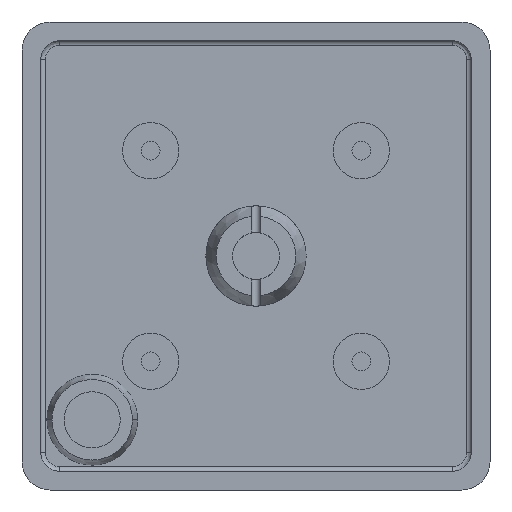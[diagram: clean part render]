
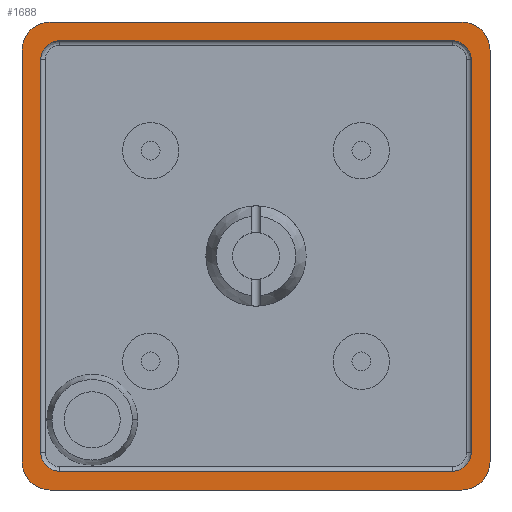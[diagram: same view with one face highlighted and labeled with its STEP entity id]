
A CAD part, left-side view. The second image highlights one B-rep face of the part: STEP entity #1688.
In plain terms, the highlighted planar face has unit normal (-1, 0, 0).
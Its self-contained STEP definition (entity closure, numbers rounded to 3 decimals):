
#29 = CARTESIAN_POINT ( 'NONE',  ( 0., -21., 21. ) ) ;
#36 = VERTEX_POINT ( 'NONE', #2280 ) ;
#72 = DIRECTION ( 'NONE',  ( 1., 0., 0. ) ) ;
#81 = DIRECTION ( 'NONE',  ( 0., 0., -1. ) ) ;
#95 = CARTESIAN_POINT ( 'NONE',  ( 0., 23., -21. ) ) ;
#194 = DIRECTION ( 'NONE',  ( -1., 0., 0. ) ) ;
#198 = VECTOR ( 'NONE', #638, 1000. ) ;
#220 = VERTEX_POINT ( 'NONE', #903 ) ;
#232 = ORIENTED_EDGE ( 'NONE', *, *, #2451, .T. ) ;
#236 = FACE_OUTER_BOUND ( 'NONE', #2263, .T. ) ;
#239 = CARTESIAN_POINT ( 'NONE',  ( 0., -23., 0. ) ) ;
#266 = CARTESIAN_POINT ( 'NONE',  ( 0., 22., 25. ) ) ;
#308 = VERTEX_POINT ( 'NONE', #1156 ) ;
#310 = AXIS2_PLACEMENT_3D ( 'NONE', #1978, #1165, #757 ) ;
#327 = DIRECTION ( 'NONE',  ( -1., 0., 0. ) ) ;
#330 = EDGE_CURVE ( 'NONE', #634, #2331, #2542, .T. ) ;
#417 = EDGE_CURVE ( 'NONE', #1371, #2218, #1115, .T. ) ;
#466 = LINE ( 'NONE', #1829, #961 ) ;
#480 = FACE_BOUND ( 'NONE', #1207, .T. ) ;
#496 = CIRCLE ( 'NONE', #2033, 2. ) ;
#508 = AXIS2_PLACEMENT_3D ( 'NONE', #2418, #2444, #632 ) ;
#512 = CARTESIAN_POINT ( 'NONE',  ( 0., -21., 23. ) ) ;
#523 = VERTEX_POINT ( 'NONE', #266 ) ;
#527 = CARTESIAN_POINT ( 'NONE',  ( 0., -22., -25. ) ) ;
#563 = ORIENTED_EDGE ( 'NONE', *, *, #1595, .F. ) ;
#566 = CARTESIAN_POINT ( 'NONE',  ( 0., 23., 0. ) ) ;
#567 = CARTESIAN_POINT ( 'NONE',  ( 0., 22., 22. ) ) ;
#572 = VERTEX_POINT ( 'NONE', #1261 ) ;
#578 = DIRECTION ( 'NONE',  ( 0., 0., -1. ) ) ;
#632 = DIRECTION ( 'NONE',  ( 0., 1., 0. ) ) ;
#634 = VERTEX_POINT ( 'NONE', #1442 ) ;
#638 = DIRECTION ( 'NONE',  ( 0., 0., 1. ) ) ;
#673 = AXIS2_PLACEMENT_3D ( 'NONE', #1338, #327, #2320 ) ;
#676 = ORIENTED_EDGE ( 'NONE', *, *, #1083, .F. ) ;
#713 = DIRECTION ( 'NONE',  ( 0., 1., 0. ) ) ;
#724 = CARTESIAN_POINT ( 'NONE',  ( 0., 23., 21. ) ) ;
#732 = VERTEX_POINT ( 'NONE', #1730 ) ;
#735 = EDGE_CURVE ( 'NONE', #36, #523, #1535, .T. ) ;
#750 = CARTESIAN_POINT ( 'NONE',  ( 0., 25., 0. ) ) ;
#757 = DIRECTION ( 'NONE',  ( 0., -1., 0. ) ) ;
#764 = EDGE_CURVE ( 'NONE', #869, #2331, #1455, .T. ) ;
#795 = DIRECTION ( 'NONE',  ( 0., 1., 0. ) ) ;
#799 = DIRECTION ( 'NONE',  ( -1., 0., 0. ) ) ;
#812 = DIRECTION ( 'NONE',  ( 0., -1., 0. ) ) ;
#814 = EDGE_CURVE ( 'NONE', #634, #523, #1373, .T. ) ;
#819 = ORIENTED_EDGE ( 'NONE', *, *, #2286, .F. ) ;
#831 = VECTOR ( 'NONE', #1895, 1000. ) ;
#868 = CARTESIAN_POINT ( 'NONE',  ( 0., 21., -21. ) ) ;
#869 = VERTEX_POINT ( 'NONE', #1374 ) ;
#873 = CIRCLE ( 'NONE', #673, 2. ) ;
#903 = CARTESIAN_POINT ( 'NONE',  ( 0., -25., -22. ) ) ;
#933 = ORIENTED_EDGE ( 'NONE', *, *, #764, .F. ) ;
#961 = VECTOR ( 'NONE', #1258, 1000. ) ;
#987 = CIRCLE ( 'NONE', #508, 3. ) ;
#998 = ORIENTED_EDGE ( 'NONE', *, *, #1713, .F. ) ;
#1006 = VECTOR ( 'NONE', #2158, 1000. ) ;
#1037 = VERTEX_POINT ( 'NONE', #724 ) ;
#1062 = LINE ( 'NONE', #239, #198 ) ;
#1064 = ORIENTED_EDGE ( 'NONE', *, *, #330, .T. ) ;
#1083 = EDGE_CURVE ( 'NONE', #2218, #572, #1522, .T. ) ;
#1085 = CARTESIAN_POINT ( 'NONE',  ( 0., -22., -22. ) ) ;
#1088 = ORIENTED_EDGE ( 'NONE', *, *, #1127, .F. ) ;
#1091 = CIRCLE ( 'NONE', #310, 2. ) ;
#1115 = CIRCLE ( 'NONE', #1783, 2. ) ;
#1127 = EDGE_CURVE ( 'NONE', #572, #1037, #873, .T. ) ;
#1156 = CARTESIAN_POINT ( 'NONE',  ( 0., -21., -23. ) ) ;
#1159 = DIRECTION ( 'NONE',  ( 0., -1., 0. ) ) ;
#1165 = DIRECTION ( 'NONE',  ( -1., 0., 0. ) ) ;
#1202 = AXIS2_PLACEMENT_3D ( 'NONE', #2493, #2161, #2186 ) ;
#1207 = EDGE_LOOP ( 'NONE', ( #1847, #1088, #676, #2525, #1953, #1360, #998, #819 ) ) ;
#1258 = DIRECTION ( 'NONE',  ( 0., -1., 0. ) ) ;
#1261 = CARTESIAN_POINT ( 'NONE',  ( 0., 21., 23. ) ) ;
#1274 = VERTEX_POINT ( 'NONE', #2354 ) ;
#1338 = CARTESIAN_POINT ( 'NONE',  ( 0., 21., 21. ) ) ;
#1357 = EDGE_CURVE ( 'NONE', #1274, #1371, #1062, .T. ) ;
#1360 = ORIENTED_EDGE ( 'NONE', *, *, #1662, .F. ) ;
#1363 = DIRECTION ( 'NONE',  ( 0., -1., 0. ) ) ;
#1371 = VERTEX_POINT ( 'NONE', #2254 ) ;
#1373 = CIRCLE ( 'NONE', #1670, 3. ) ;
#1374 = CARTESIAN_POINT ( 'NONE',  ( 0., 22., -25. ) ) ;
#1386 = DIRECTION ( 'NONE',  ( 1., 0., 0. ) ) ;
#1442 = CARTESIAN_POINT ( 'NONE',  ( 0., 25., 22. ) ) ;
#1455 = CIRCLE ( 'NONE', #1202, 3. ) ;
#1522 = LINE ( 'NONE', #2314, #831 ) ;
#1535 = LINE ( 'NONE', #2098, #2248 ) ;
#1536 = VECTOR ( 'NONE', #81, 1000. ) ;
#1559 = LINE ( 'NONE', #566, #2388 ) ;
#1591 = ORIENTED_EDGE ( 'NONE', *, *, #2131, .F. ) ;
#1595 = EDGE_CURVE ( 'NONE', #220, #1833, #1720, .T. ) ;
#1603 = EDGE_CURVE ( 'NONE', #220, #2520, #2197, .T. ) ;
#1662 = EDGE_CURVE ( 'NONE', #308, #1274, #1091, .T. ) ;
#1664 = EDGE_CURVE ( 'NONE', #1037, #2420, #1559, .T. ) ;
#1670 = AXIS2_PLACEMENT_3D ( 'NONE', #567, #1788, #795 ) ;
#1688 = ADVANCED_FACE ( 'NONE', ( #236, #480 ), #2252, .F. ) ;
#1713 = EDGE_CURVE ( 'NONE', #732, #308, #466, .T. ) ;
#1720 = CIRCLE ( 'NONE', #2477, 3. ) ;
#1730 = CARTESIAN_POINT ( 'NONE',  ( 0., 21., -23. ) ) ;
#1756 = DIRECTION ( 'NONE',  ( 0., 1., 0. ) ) ;
#1763 = CARTESIAN_POINT ( 'NONE',  ( 0., 0., -25. ) ) ;
#1783 = AXIS2_PLACEMENT_3D ( 'NONE', #29, #799, #812 ) ;
#1788 = DIRECTION ( 'NONE',  ( 1., 0., 0. ) ) ;
#1829 = CARTESIAN_POINT ( 'NONE',  ( 0., 0., -23. ) ) ;
#1833 = VERTEX_POINT ( 'NONE', #527 ) ;
#1847 = ORIENTED_EDGE ( 'NONE', *, *, #1664, .F. ) ;
#1860 = ORIENTED_EDGE ( 'NONE', *, *, #814, .F. ) ;
#1895 = DIRECTION ( 'NONE',  ( 0., 1., 0. ) ) ;
#1953 = ORIENTED_EDGE ( 'NONE', *, *, #1357, .F. ) ;
#1969 = CARTESIAN_POINT ( 'NONE',  ( 0., 25., -22. ) ) ;
#1978 = CARTESIAN_POINT ( 'NONE',  ( 0., -21., -21. ) ) ;
#2033 = AXIS2_PLACEMENT_3D ( 'NONE', #868, #194, #1363 ) ;
#2041 = DIRECTION ( 'NONE',  ( 0., 1., 0. ) ) ;
#2098 = CARTESIAN_POINT ( 'NONE',  ( 0., 0., 25. ) ) ;
#2099 = AXIS2_PLACEMENT_3D ( 'NONE', #2423, #72, #2041 ) ;
#2130 = LINE ( 'NONE', #1763, #2498 ) ;
#2131 = EDGE_CURVE ( 'NONE', #36, #2520, #987, .T. ) ;
#2158 = DIRECTION ( 'NONE',  ( 0., 0., 1. ) ) ;
#2161 = DIRECTION ( 'NONE',  ( 1., 0., 0. ) ) ;
#2185 = CARTESIAN_POINT ( 'NONE',  ( 0., -25., 0. ) ) ;
#2186 = DIRECTION ( 'NONE',  ( 0., 1., 0. ) ) ;
#2197 = LINE ( 'NONE', #2185, #1006 ) ;
#2218 = VERTEX_POINT ( 'NONE', #512 ) ;
#2248 = VECTOR ( 'NONE', #713, 1000. ) ;
#2252 = PLANE ( 'NONE',  #2099 ) ;
#2254 = CARTESIAN_POINT ( 'NONE',  ( 0., -23., 21. ) ) ;
#2263 = EDGE_LOOP ( 'NONE', ( #2270, #1591, #2495, #1860, #1064, #933, #232, #563 ) ) ;
#2270 = ORIENTED_EDGE ( 'NONE', *, *, #1603, .T. ) ;
#2280 = CARTESIAN_POINT ( 'NONE',  ( 0., -22., 25. ) ) ;
#2286 = EDGE_CURVE ( 'NONE', #2420, #732, #496, .T. ) ;
#2314 = CARTESIAN_POINT ( 'NONE',  ( 0., 0., 23. ) ) ;
#2320 = DIRECTION ( 'NONE',  ( 0., -1., 0. ) ) ;
#2331 = VERTEX_POINT ( 'NONE', #1969 ) ;
#2354 = CARTESIAN_POINT ( 'NONE',  ( 0., -23., -21. ) ) ;
#2388 = VECTOR ( 'NONE', #578, 1000. ) ;
#2418 = CARTESIAN_POINT ( 'NONE',  ( 0., -22., 22. ) ) ;
#2420 = VERTEX_POINT ( 'NONE', #95 ) ;
#2423 = CARTESIAN_POINT ( 'NONE',  ( 0., 0., 0. ) ) ;
#2444 = DIRECTION ( 'NONE',  ( 1., 0., 0. ) ) ;
#2451 = EDGE_CURVE ( 'NONE', #869, #1833, #2130, .T. ) ;
#2477 = AXIS2_PLACEMENT_3D ( 'NONE', #1085, #1386, #1756 ) ;
#2493 = CARTESIAN_POINT ( 'NONE',  ( 0., 22., -22. ) ) ;
#2495 = ORIENTED_EDGE ( 'NONE', *, *, #735, .T. ) ;
#2498 = VECTOR ( 'NONE', #1159, 1000. ) ;
#2512 = CARTESIAN_POINT ( 'NONE',  ( 0., -25., 22. ) ) ;
#2520 = VERTEX_POINT ( 'NONE', #2512 ) ;
#2525 = ORIENTED_EDGE ( 'NONE', *, *, #417, .F. ) ;
#2542 = LINE ( 'NONE', #750, #1536 ) ;
